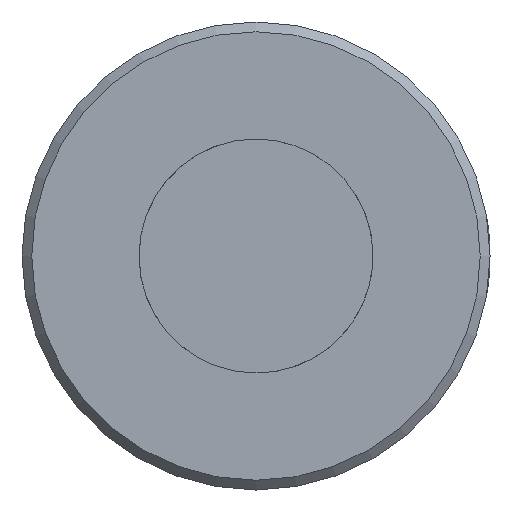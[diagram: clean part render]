
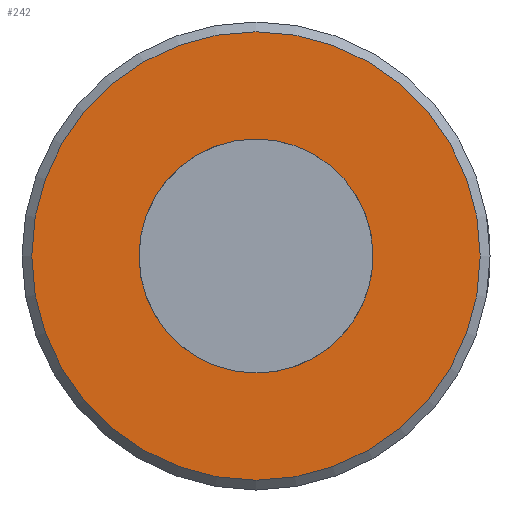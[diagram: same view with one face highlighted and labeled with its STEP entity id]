
A CAD part, left-side view. The second image highlights one B-rep face of the part: STEP entity #242.
In plain terms, the highlighted planar face has unit normal (-1, 0, 0).
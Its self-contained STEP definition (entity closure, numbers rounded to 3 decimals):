
#2 = PLANE ( 'NONE',  #215 ) ;
#54 = DIRECTION ( 'NONE',  ( -1., 0., 0. ) ) ;
#66 = ORIENTED_EDGE ( 'NONE', *, *, #240, .T. ) ;
#112 = AXIS2_PLACEMENT_3D ( 'NONE', #274, #165, #117 ) ;
#117 = DIRECTION ( 'NONE',  ( 0., -0.635, 0.772 ) ) ;
#162 = DIRECTION ( 'NONE',  ( 0., 1., 0. ) ) ;
#165 = DIRECTION ( 'NONE',  ( 1., 0., 0. ) ) ;
#215 = AXIS2_PLACEMENT_3D ( 'NONE', #651, #217, #162 ) ;
#217 = DIRECTION ( 'NONE',  ( 1., 0., 0. ) ) ;
#224 = EDGE_LOOP ( 'NONE', ( #66 ) ) ;
#226 = CARTESIAN_POINT ( 'NONE',  ( -43.75, 0., 0. ) ) ;
#233 = CIRCLE ( 'NONE', #582, 11.5 ) ;
#240 = EDGE_CURVE ( 'NONE', #650, #650, #233, .T. ) ;
#242 = ADVANCED_FACE ( 'NONE', ( #614, #560 ), #2, .F. ) ;
#246 = EDGE_LOOP ( 'NONE', ( #384 ) ) ;
#274 = CARTESIAN_POINT ( 'NONE',  ( -43.75, 0., 0. ) ) ;
#324 = CARTESIAN_POINT ( 'NONE',  ( -43.75, 0., -11.5 ) ) ;
#384 = ORIENTED_EDGE ( 'NONE', *, *, #702, .T. ) ;
#422 = CIRCLE ( 'NONE', #112, 6. ) ;
#444 = DIRECTION ( 'NONE',  ( 0., 0., -1. ) ) ;
#453 = VERTEX_POINT ( 'NONE', #667 ) ;
#560 = FACE_OUTER_BOUND ( 'NONE', #224, .T. ) ;
#582 = AXIS2_PLACEMENT_3D ( 'NONE', #226, #54, #444 ) ;
#614 = FACE_BOUND ( 'NONE', #246, .T. ) ;
#650 = VERTEX_POINT ( 'NONE', #324 ) ;
#651 = CARTESIAN_POINT ( 'NONE',  ( -43.75, 0., 0. ) ) ;
#667 = CARTESIAN_POINT ( 'NONE',  ( -43.75, -3.812, 4.634 ) ) ;
#702 = EDGE_CURVE ( 'NONE', #453, #453, #422, .T. ) ;
